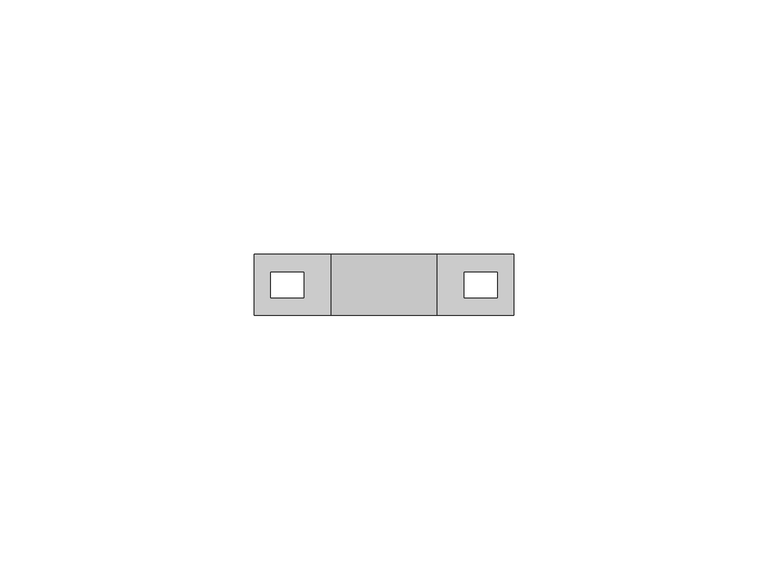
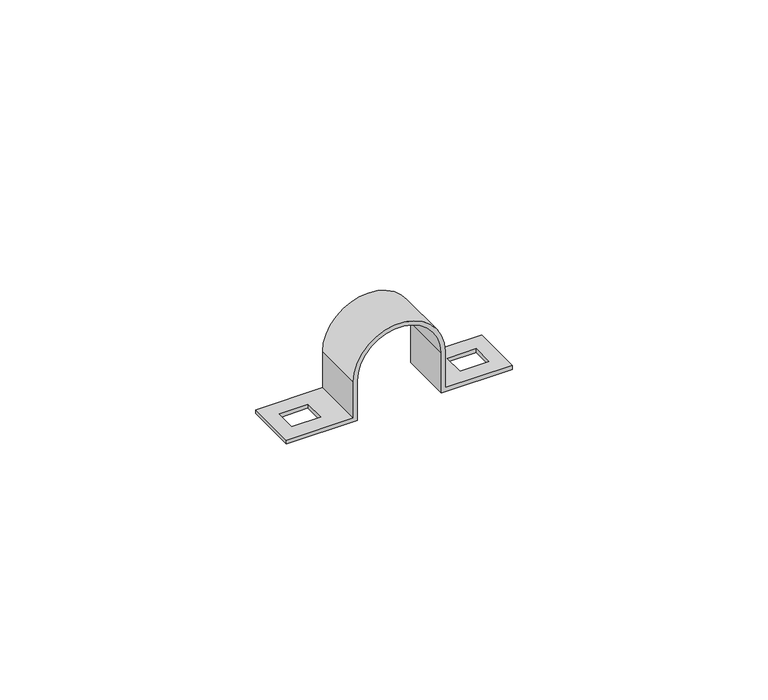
"""IFC4 building model written with IfcOpenShell, lengths in millimetres: cable carrier fitting geometry."""

from ifc_helpers import new_model, si_unit, frame, origin, place, context, project, spatial, polyline, circle_curve, source, transform, mapped, element, save
from ifc_brep_helpers import plane_surface, cylinder_surface, revolved_surface, advanced_brep


def cable_carrier_fitting_219328c9(model_context):
    return source(origin(), model_context, "Body", "AdvancedBrep", [
        advanced_brep(
        [(25.5, -6.0, 0.0), (25.5, -6.0, 0.9), (10.4, -6.0, 0.9), (10.4, -6.0, 9.5), (-10.4, -6.0, 9.5), (-10.4, -6.0, 0.9), (-25.5, -6.0, 0.9), (-25.5, -6.0, 0.0), (-9.5, -6.0, 0.0), (-9.5, -6.0, 9.5), (9.5, -6.0, 9.5), (9.5, -6.0, 0.0), (25.5, 6.0, 0.0), (9.5, 6.0, 0.0), (9.5, 6.0, 9.5), (-9.5, 6.0, 9.5), (-9.5, 6.0, 0.0), (-25.5, 6.0, 0.0), (-25.5, 6.0, 0.9), (-10.4, 6.0, 0.9), (-10.4, 6.0, 9.5), (10.4, 6.0, 9.5), (10.4, 6.0, 0.9), (25.5, 6.0, 0.9), (22.25, -2.5, 0.9), (15.75, -2.5, 0.9), (15.75, 2.5, 0.9), (22.25, 2.5, 0.9), (-22.25, 2.5, 0.9), (-15.75, 2.5, 0.9), (-15.75, -2.5, 0.9), (-22.25, -2.5, 0.9), (-15.75, 2.5, 0.0), (-22.25, 2.5, 0.0), (-22.25, -2.5, 0.0), (-15.75, -2.5, 0.0), (15.75, -2.5, 0.0), (22.25, -2.5, 0.0), (22.25, 2.5, 0.0), (15.75, 2.5, 0.0)],
        [
            (0, 1),
            (1, 2),
            (2, 3),
            (3, 4, circle_curve(frame((0.0, -6.0, 9.5), z_axis=(0.0, -1.0, 0.0), x_axis=(1.0, 0.0, 0.0)), 10.4)),
            (4, 5),
            (5, 6),
            (6, 7),
            (7, 8),
            (8, 9),
            (9, 10, circle_curve(frame((0.0, -6.0, 9.5), z_axis=(0.0, 1.0, 0.0), x_axis=(1.0, 0.0, 0.0)), 9.5)),
            (10, 11),
            (11, 0),
            (12, 13),
            (13, 14),
            (14, 15, circle_curve(frame((0.0, 6.0, 9.5), z_axis=(0.0, -1.0, 0.0), x_axis=(1.0, 0.0, 0.0)), 9.5)),
            (15, 16),
            (16, 17),
            (17, 18),
            (18, 19),
            (19, 20),
            (20, 21, circle_curve(frame((0.0, 6.0, 9.5), z_axis=(0.0, 1.0, 0.0), x_axis=(1.0, 0.0, 0.0)), 10.4)),
            (21, 22),
            (22, 23),
            (23, 12),
            (0, 12),
            (23, 1),
            (22, 2),
            (24, 25),
            (25, 26),
            (26, 27),
            (27, 24),
            (21, 3),
            (20, 4),
            (19, 5),
            (18, 6),
            (28, 29),
            (29, 30),
            (30, 31),
            (31, 28),
            (17, 7),
            (16, 8),
            (32, 33),
            (33, 34),
            (34, 35),
            (35, 32),
            (15, 9),
            (14, 10),
            (13, 11),
            (36, 37),
            (37, 38),
            (38, 39),
            (39, 36),
            (32, 29),
            (28, 33),
            (31, 34),
            (30, 35),
            (36, 25),
            (24, 37),
            (27, 38),
            (26, 39),
        ],
        [
            plane_surface(frame((25.5, -6.0, 0.9), z_axis=(0.0, -1.0, 0.0), x_axis=(0.0, 0.0, 1.0))),
            plane_surface(frame((25.5, 6.0, 0.9), z_axis=(0.0, 1.0, 0.0), x_axis=(0.0, 0.0, -1.0))),
            plane_surface(frame((25.5, -6.0, 0.0), z_axis=(1.0, 0.0, 0.0), x_axis=(0.0, 1.0, 0.0))),
            plane_surface(frame((25.5, -6.0, 0.9), z_axis=(0.0, 0.0, 1.0), x_axis=(0.0, 1.0, 0.0))),
            plane_surface(frame((10.4, -6.0, 0.9), z_axis=(1.0, 0.0, 0.0), x_axis=(0.0, 1.0, 0.0))),
            cylinder_surface(frame((0.0, 6.0, 9.5), z_axis=(0.0, -1.0, 0.0), x_axis=(1.0, 0.0, 0.0)), 10.4),
            plane_surface(frame((-10.4, -6.0, 9.5), z_axis=(-1.0, 0.0, 0.0), x_axis=(0.0, 1.0, 0.0))),
            plane_surface(frame((-10.4, -6.0, 0.9), z_axis=(0.0, 0.0, 1.0), x_axis=(0.0, 1.0, 0.0))),
            plane_surface(frame((-25.5, -6.0, 0.9), z_axis=(-1.0, 0.0, 0.0), x_axis=(0.0, 1.0, 0.0))),
            plane_surface(frame((-25.5, -6.0, 0.0), z_axis=(0.0, 0.0, -1.0), x_axis=(0.0, 1.0, 0.0))),
            plane_surface(frame((-9.5, -6.0, 0.0), z_axis=(1.0, 0.0, 0.0), x_axis=(0.0, 1.0, 0.0))),
            revolved_surface(polyline([(9.5, 6.0, 9.5), (9.5, -6.0, 9.5)]), (0.0, 6.0, 9.5), (0.0, 1.0, 0.0)),
            plane_surface(frame((9.5, -6.0, 9.5), z_axis=(-1.0, 0.0, 0.0), x_axis=(0.0, 1.0, 0.0))),
            plane_surface(frame((9.5, -6.0, 0.0), z_axis=(0.0, 0.0, -1.0), x_axis=(0.0, 1.0, 0.0))),
            plane_surface(frame((-15.75, 2.5, 21.959409), z_axis=(0.0, -1.0, 0.0), x_axis=(0.0, 0.0, -1.0))),
            plane_surface(frame((-22.25, 2.5, 21.959409), z_axis=(1.0, 0.0, 0.0), x_axis=(0.0, 0.0, -1.0))),
            plane_surface(frame((-22.25, -2.5, 21.959409), z_axis=(0.0, 1.0, 0.0), x_axis=(0.0, 0.0, -1.0))),
            plane_surface(frame((-15.75, -2.5, 21.959409), z_axis=(-1.0, 0.0, 0.0), x_axis=(0.0, 0.0, -1.0))),
            plane_surface(frame((15.75, -2.5, 21.959409), z_axis=(0.0, 1.0, 0.0), x_axis=(0.0, 0.0, -1.0))),
            plane_surface(frame((22.25, -2.5, 21.959409), z_axis=(-1.0, 0.0, 0.0), x_axis=(0.0, 0.0, -1.0))),
            plane_surface(frame((22.25, 2.5, 21.959409), z_axis=(0.0, -1.0, 0.0), x_axis=(0.0, 0.0, -1.0))),
            plane_surface(frame((15.75, 2.5, 21.959409), z_axis=(1.0, 0.0, 0.0), x_axis=(0.0, 0.0, -1.0))),
        ],
        [
            (0, [[1, 2, 3, 4, 5, 6, 7, 8, 9, 10, 11, 12]]),
            (1, [[13, 14, 15, 16, 17, 18, 19, 20, 21, 22, 23, 24]]),
            (2, [[-1, 25, -24, 26]]),
            (3, [[-2, -26, -23, 27], [28, 29, 30, 31]]),
            (4, [[-3, -27, -22, 32]]),
            (5, [[-4, -32, -21, 33]]),
            (6, [[-5, -33, -20, 34]]),
            (7, [[-6, -34, -19, 35], [36, 37, 38, 39]]),
            (8, [[-7, -35, -18, 40]]),
            (9, [[-8, -40, -17, 41], [42, 43, 44, 45]]),
            (10, [[-9, -41, -16, 46]]),
            (11, [[-10, -46, -15, 47]]),
            (12, [[-11, -47, -14, 48]]),
            (13, [[-12, -48, -13, -25], [49, 50, 51, 52]]),
            (14, [[53, -36, 54, -42]]),
            (15, [[-54, -39, 55, -43]]),
            (16, [[-55, -38, 56, -44]]),
            (17, [[-53, -45, -56, -37]]),
            (18, [[57, -28, 58, -49]]),
            (19, [[-58, -31, 59, -50]]),
            (20, [[-59, -30, 60, -51]]),
            (21, [[-57, -52, -60, -29]]),
        ],
    ),
    ])


if __name__ == "__main__":
    model = new_model("IFC4")
    model_context = context("Model", 3, world=origin())
    ifc_project = project(units=[si_unit("LENGTHUNIT", "METRE", prefix="MILLI")], contexts=[model_context])
    site = spatial("IfcSite", under=ifc_project)
    building = spatial("IfcBuilding", under=site)
    placement = place(None, origin())
    cable_carrier_fitting_shape = cable_carrier_fitting_219328c9(model_context)
    element("IfcCableCarrierFitting", 1, at=placement, inside=building, context=model_context, shape_type="MappedRepresentation", body=[
        mapped(cable_carrier_fitting_shape, transform((0.0, 0.0, 0.0), x_axis=(1.0, 0.0, 0.0), y_axis=(0.0, 1.0, 0.0), z_axis=(0.0, 0.0, 1.0))),
    ])
    save(model, "model.ifc")
